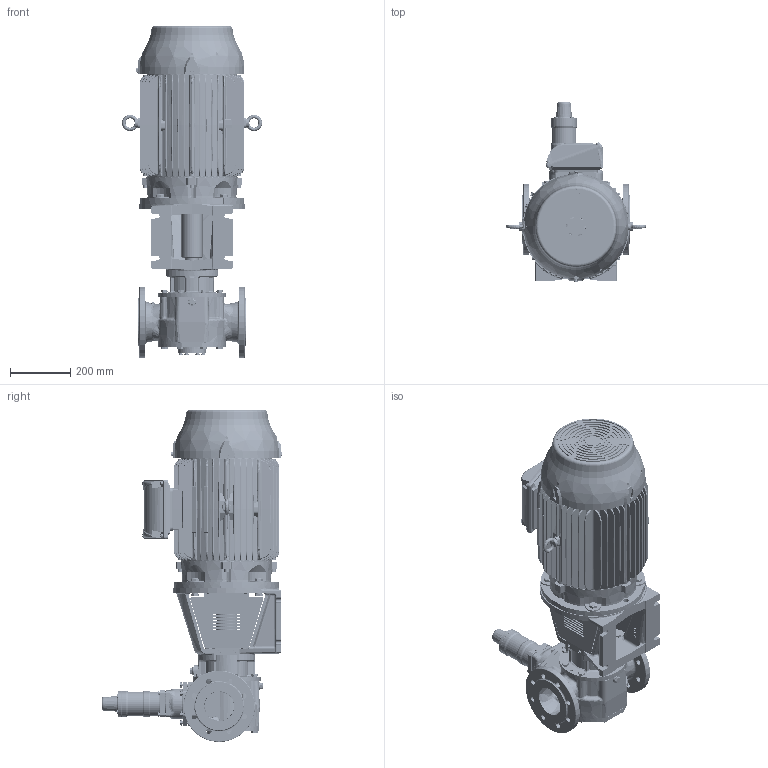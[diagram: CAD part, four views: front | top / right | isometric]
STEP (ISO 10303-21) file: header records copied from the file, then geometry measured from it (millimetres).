
FILE_DESCRIPTION(/* description */ (''),/* implementation_level */ '2;1');
FILE_NAME(/* name */ 'C:\V\JPP\Designs\GEAR PUMPS\PRODUCT ENGINEERING\EUROPE\TG BLOC\TG BLOC_86-100_R5_O_RV1-_180L-STEP.stp',/* time_stamp */ '2021-03-19T15:18:28+01:00',/* author */ ('A77THR'),/* organization */ (''),/* preprocessor_version */ 'ST-DEVELOPER v18.1',/* originating_system */ 'Autodesk Inventor 2020',/* authorisation */ '');
FILE_SCHEMA (('AUTOMOTIVE_DESIGN { 1 0 10303 214 3 1 1 }'));
Length unit declared in the file: millimetre
Products named in the file (1): TG BLOC_86-100_R5_O_RV1-_180L
Bounding box: 466 x 602.64 x 1105.7 mm (x, y, z)
Volume: 66646817.5 mm3; surface area: 3010191 mm2
Topology: 4 solids, 4 shells, 5779 faces, 14851 edges, 9241 vertices
Faces by surface type: plane 2002, bspline 1649, cylinder 1294, cone 601, torus 171, sphere 62
Full cylindrical faces by diameter (mm): 4 x1, 4.5 x8, 4.917 x8, 5 x4, 5.459 x4, 6 x4, 6.647 x1, 7 x8, 7.323 x10, 8 x13, 8.7 x4, 9 x12, 9.188 x8, 10 x16, 10.106 x7, 10.2 x2, 11 x8, 11.053 x4, 11.4 x10, 11.445 x2, 11.6 x3, 12 x4, 13 x1, 13.157 x2, 13.2 x2, 14 x8, 15.011 x2, 15.4 x8, 16 x5, 17.2 x20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
Entity records: 271490 total; most frequent: CARTESIAN_POINT 137315, ORIENTED_EDGE 29490, DIRECTION 23824, EDGE_CURVE 14745, AXIS2_PLACEMENT_3D 9446, VERTEX_POINT 9247, EDGE_LOOP 6206, FACE_OUTER_BOUND 5779
